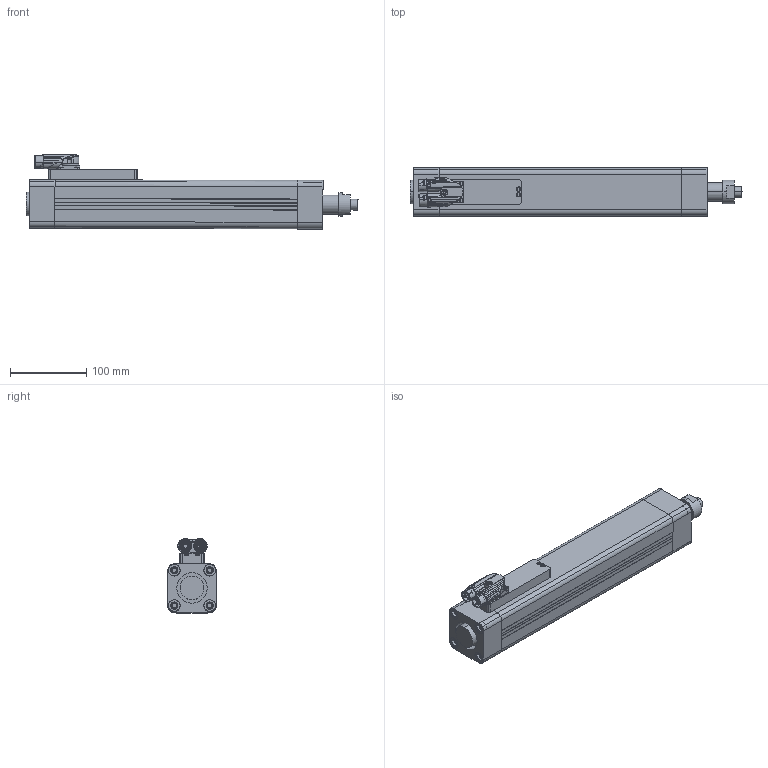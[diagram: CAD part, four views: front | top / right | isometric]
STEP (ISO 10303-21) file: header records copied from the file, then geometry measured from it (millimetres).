
FILE_DESCRIPTION(('STEP AP214'),'1');
FILE_NAME('ETT050S3CSFN0030C.stp','2015-01-08T15:42:44',(' '),(' '),'Spatial InterOp 3D',' ',' ');
FILE_SCHEMA(('automotive_design'));
Length unit declared in the file: millimetre
Products named in the file (27): ETT050S3CSFN0030C; Ass eth50 3 vuoto; ETH050 3.1; TAPPO NORMALE; TAPPO; Scatola; Vite M3 lunga; Connettore a y a blocchi; Pin; Vite; Pallino verde; Pallino arancione; Frutto verde; Frutto arancione; Corpo connettore; Vite M3scheda -tappo; cuscinetto; viti parker; riempitivo; Slider FINTO
Assembly tree (36 placements, depth 3):
  ETT050S3CSFN0030C
    Ass eth50 3 vuoto
    ETH050 3.1
    TAPPO NORMALE
    TAPPO
    Scatola
    Vite M3 lunga  x4
    Connettore a y a blocchi
      Pin
      Vite
      Pallino verde
      Pallino arancione
      Frutto verde
      Frutto arancione
      Corpo connettore
    Vite M3scheda -tappo  x4
    cuscinetto  x2
    viti parker
    viti parker
    viti parker
    viti parker
    viti parker
    viti parker
    viti parker
    viti parker
    riempitivo  x4
    Slider FINTO
Bounding box: 436.05 x 63.5 x 97.6 mm (x, y, z)
Volume: 1234019.5 mm3; surface area: 360226.5 mm2
Topology: 27 solids, 1871 shells, 2481 faces, 10229 edges, 9658 vertices
Faces by surface type: cylinder 1026, plane 695, bspline 288, torus 262, cone 95, extrusion 68, sphere 47
Entity records: 161544 total; most frequent: CARTESIAN_POINT 60013, DIRECTION 14465, ORIENTED_EDGE 10217, EDGE_CURVE 9330, VERTEX_POINT 9036, AXIS2_PLACEMENT_3D 5537, STYLED_ITEM 3505, PRESENTATION_STYLE_ASSIGNMENT 3505
